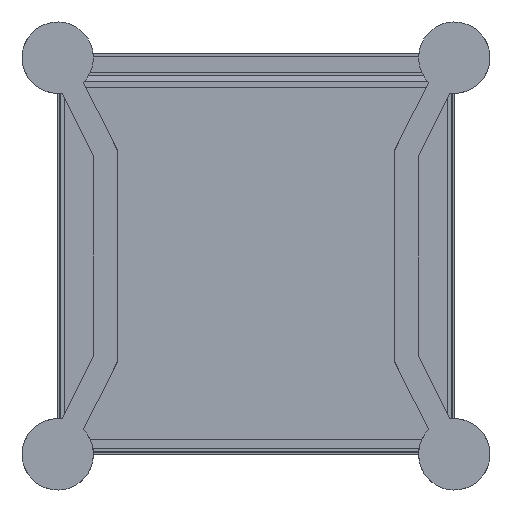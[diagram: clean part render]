
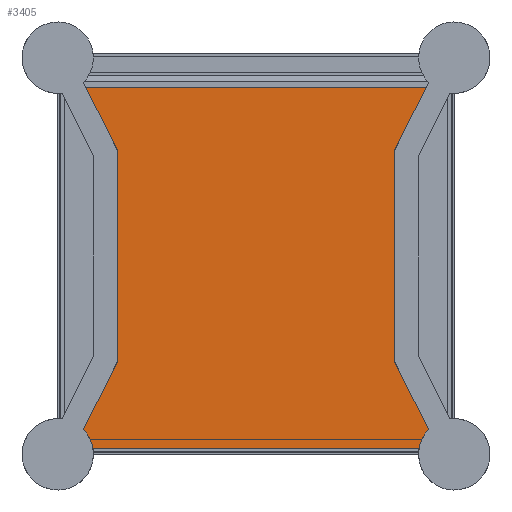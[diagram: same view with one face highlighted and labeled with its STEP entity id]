
A CAD part, front view. The second image highlights one B-rep face of the part: STEP entity #3405.
In plain terms, the highlighted planar face has unit normal (0, -1, 0).
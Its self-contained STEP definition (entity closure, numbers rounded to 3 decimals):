
#40 = ORIENTED_EDGE ( 'NONE', *, *, #4488, .F. ) ;
#65 = DIRECTION ( 'NONE',  ( 0., 0., -1. ) ) ;
#129 = EDGE_CURVE ( 'NONE', #2893, #1028, #2057, .T. ) ;
#146 = VERTEX_POINT ( 'NONE', #5357 ) ;
#162 = DIRECTION ( 'NONE',  ( 1., 0., 0. ) ) ;
#166 = DIRECTION ( 'NONE',  ( 0., 0., -1. ) ) ;
#189 = VERTEX_POINT ( 'NONE', #4141 ) ;
#244 = CARTESIAN_POINT ( 'NONE',  ( 59.5, 28., -103.25 ) ) ;
#471 = VECTOR ( 'NONE', #5524, 1000. ) ;
#543 = VECTOR ( 'NONE', #1266, 1000. ) ;
#647 = VECTOR ( 'NONE', #166, 1000. ) ;
#695 = LINE ( 'NONE', #6956, #6308 ) ;
#715 = VECTOR ( 'NONE', #5891, 1000. ) ;
#750 = DIRECTION ( 'NONE',  ( 0., 1., 0. ) ) ;
#817 = VECTOR ( 'NONE', #3361, 1000. ) ;
#897 = VERTEX_POINT ( 'NONE', #4000 ) ;
#1028 = VERTEX_POINT ( 'NONE', #3577 ) ;
#1117 = DIRECTION ( 'NONE',  ( -1., 0., 0. ) ) ;
#1184 = LINE ( 'NONE', #6235, #7667 ) ;
#1266 = DIRECTION ( 'NONE',  ( 0., 0., -1. ) ) ;
#1439 = ORIENTED_EDGE ( 'NONE', *, *, #1511, .T. ) ;
#1511 = EDGE_CURVE ( 'NONE', #146, #5867, #3774, .T. ) ;
#1656 = EDGE_CURVE ( 'NONE', #189, #1028, #5883, .T. ) ;
#1985 = EDGE_CURVE ( 'NONE', #3699, #3133, #695, .T. ) ;
#2018 = VECTOR ( 'NONE', #162, 1000. ) ;
#2057 = LINE ( 'NONE', #2733, #715 ) ;
#2521 = ORIENTED_EDGE ( 'NONE', *, *, #5706, .F. ) ;
#2570 = EDGE_LOOP ( 'NONE', ( #6370, #3942, #7684, #4431, #40, #1439, #6277, #8209, #6769, #2521, #7288, #6617 ) ) ;
#2643 = VECTOR ( 'NONE', #2804, 1000. ) ;
#2733 = CARTESIAN_POINT ( 'NONE',  ( 121., 28., -1.5 ) ) ;
#2802 = EDGE_CURVE ( 'NONE', #6089, #3243, #5733, .T. ) ;
#2804 = DIRECTION ( 'NONE',  ( -1., 0., 0. ) ) ;
#2813 = CARTESIAN_POINT ( 'NONE',  ( 123., 28., -1.5 ) ) ;
#2893 = VERTEX_POINT ( 'NONE', #7300 ) ;
#2895 = CARTESIAN_POINT ( 'NONE',  ( -119., 28., -120.25 ) ) ;
#2900 = EDGE_CURVE ( 'NONE', #897, #6089, #6022, .T. ) ;
#3015 = CARTESIAN_POINT ( 'NONE',  ( -61.5, 28., -103.25 ) ) ;
#3133 = VERTEX_POINT ( 'NONE', #2895 ) ;
#3214 = VERTEX_POINT ( 'NONE', #7710 ) ;
#3243 = VERTEX_POINT ( 'NONE', #3896 ) ;
#3356 = VERTEX_POINT ( 'NONE', #4603 ) ;
#3361 = DIRECTION ( 'NONE',  ( 1., 0., 0. ) ) ;
#3405 = ADVANCED_FACE ( 'NONE', ( #4763 ), #7289, .F. ) ;
#3422 = CARTESIAN_POINT ( 'NONE',  ( -119., 28., -103.25 ) ) ;
#3426 = CARTESIAN_POINT ( 'NONE',  ( 61.5, 28., 95.363 ) ) ;
#3577 = CARTESIAN_POINT ( 'NONE',  ( 121., 28., -103.25 ) ) ;
#3657 = CARTESIAN_POINT ( 'NONE',  ( -121., 28., 95.363 ) ) ;
#3699 = VERTEX_POINT ( 'NONE', #3422 ) ;
#3749 = DIRECTION ( 'NONE',  ( 0., 0., -1. ) ) ;
#3757 = VECTOR ( 'NONE', #8250, 1000. ) ;
#3774 = LINE ( 'NONE', #3895, #3757 ) ;
#3859 = LINE ( 'NONE', #4568, #7252 ) ;
#3895 = CARTESIAN_POINT ( 'NONE',  ( 59.5, 28., 107.75 ) ) ;
#3896 = CARTESIAN_POINT ( 'NONE',  ( -121., 28., -103.25 ) ) ;
#3932 = CARTESIAN_POINT ( 'NONE',  ( 0., 28., -5.25 ) ) ;
#3942 = ORIENTED_EDGE ( 'NONE', *, *, #1656, .T. ) ;
#4000 = CARTESIAN_POINT ( 'NONE',  ( -123., 28., 95.363 ) ) ;
#4013 = LINE ( 'NONE', #2813, #647 ) ;
#4103 = AXIS2_PLACEMENT_3D ( 'NONE', #3932, #750, #8069 ) ;
#4116 = CARTESIAN_POINT ( 'NONE',  ( -123., 28., 107.75 ) ) ;
#4141 = CARTESIAN_POINT ( 'NONE',  ( 119., 28., -103.25 ) ) ;
#4306 = LINE ( 'NONE', #3015, #4530 ) ;
#4431 = ORIENTED_EDGE ( 'NONE', *, *, #8084, .F. ) ;
#4488 = EDGE_CURVE ( 'NONE', #146, #3214, #4013, .T. ) ;
#4530 = VECTOR ( 'NONE', #1117, 1000. ) ;
#4568 = CARTESIAN_POINT ( 'NONE',  ( 0., 28., -120.25 ) ) ;
#4603 = CARTESIAN_POINT ( 'NONE',  ( 119., 28., -120.25 ) ) ;
#4763 = FACE_OUTER_BOUND ( 'NONE', #2570, .T. ) ;
#4772 = CARTESIAN_POINT ( 'NONE',  ( -61.5, 28., 95.363 ) ) ;
#5357 = CARTESIAN_POINT ( 'NONE',  ( 123., 28., 107.75 ) ) ;
#5524 = DIRECTION ( 'NONE',  ( 0., 0., 1. ) ) ;
#5706 = EDGE_CURVE ( 'NONE', #3699, #3243, #4306, .T. ) ;
#5733 = LINE ( 'NONE', #8216, #543 ) ;
#5867 = VERTEX_POINT ( 'NONE', #4116 ) ;
#5883 = LINE ( 'NONE', #244, #2018 ) ;
#5891 = DIRECTION ( 'NONE',  ( 0., 0., -1. ) ) ;
#6022 = LINE ( 'NONE', #4772, #817 ) ;
#6078 = LINE ( 'NONE', #3426, #2643 ) ;
#6089 = VERTEX_POINT ( 'NONE', #3657 ) ;
#6235 = CARTESIAN_POINT ( 'NONE',  ( 119., 28., 107.75 ) ) ;
#6277 = ORIENTED_EDGE ( 'NONE', *, *, #7226, .F. ) ;
#6308 = VECTOR ( 'NONE', #65, 1000. ) ;
#6370 = ORIENTED_EDGE ( 'NONE', *, *, #7259, .F. ) ;
#6617 = ORIENTED_EDGE ( 'NONE', *, *, #7566, .T. ) ;
#6769 = ORIENTED_EDGE ( 'NONE', *, *, #2802, .T. ) ;
#6852 = CARTESIAN_POINT ( 'NONE',  ( -123., 28., -1.5 ) ) ;
#6956 = CARTESIAN_POINT ( 'NONE',  ( -119., 28., -62.75 ) ) ;
#7093 = DIRECTION ( 'NONE',  ( 1., 0., 0. ) ) ;
#7226 = EDGE_CURVE ( 'NONE', #897, #5867, #7515, .T. ) ;
#7252 = VECTOR ( 'NONE', #7093, 1000. ) ;
#7259 = EDGE_CURVE ( 'NONE', #189, #3356, #1184, .T. ) ;
#7288 = ORIENTED_EDGE ( 'NONE', *, *, #1985, .T. ) ;
#7289 = PLANE ( 'NONE',  #4103 ) ;
#7300 = CARTESIAN_POINT ( 'NONE',  ( 121., 28., 95.363 ) ) ;
#7515 = LINE ( 'NONE', #6852, #471 ) ;
#7566 = EDGE_CURVE ( 'NONE', #3133, #3356, #3859, .T. ) ;
#7667 = VECTOR ( 'NONE', #3749, 1000. ) ;
#7684 = ORIENTED_EDGE ( 'NONE', *, *, #129, .F. ) ;
#7710 = CARTESIAN_POINT ( 'NONE',  ( 123., 28., 95.363 ) ) ;
#8069 = DIRECTION ( 'NONE',  ( 0., 0., -1. ) ) ;
#8084 = EDGE_CURVE ( 'NONE', #3214, #2893, #6078, .T. ) ;
#8209 = ORIENTED_EDGE ( 'NONE', *, *, #2900, .T. ) ;
#8216 = CARTESIAN_POINT ( 'NONE',  ( -121., 28., -1.5 ) ) ;
#8250 = DIRECTION ( 'NONE',  ( -1., 0., 0. ) ) ;
